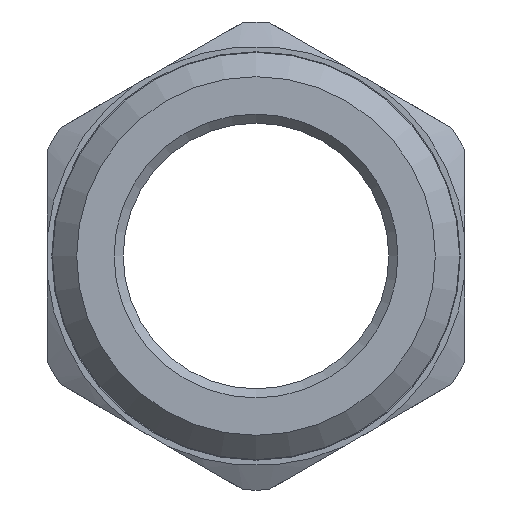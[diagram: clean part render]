
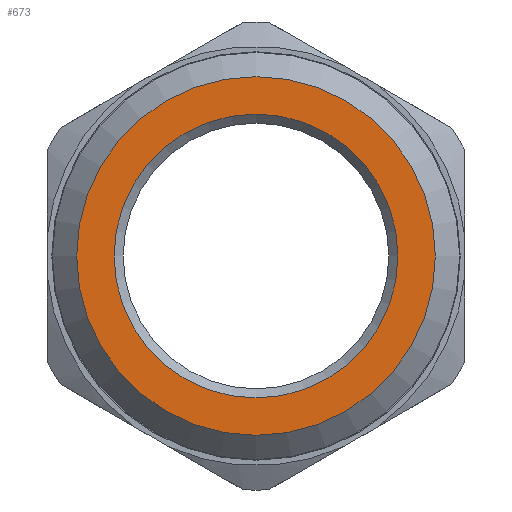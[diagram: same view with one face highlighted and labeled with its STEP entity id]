
A CAD part, front view. The second image highlights one B-rep face of the part: STEP entity #673.
In plain terms, the highlighted planar face has unit normal (0, -1, 0).
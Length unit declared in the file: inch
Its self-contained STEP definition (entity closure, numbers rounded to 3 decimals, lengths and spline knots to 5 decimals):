
#40=FACE_BOUND('',#113,.T.);
#46=PLANE('',#733);
#72=FACE_OUTER_BOUND('',#112,.T.);
#112=EDGE_LOOP('',(#461));
#113=EDGE_LOOP('',(#462));
#224=CIRCLE('',#732,0.2335);
#225=CIRCLE('',#734,0.295);
#272=VERTEX_POINT('',#1037);
#273=VERTEX_POINT('',#1041);
#347=EDGE_CURVE('',#272,#272,#224,.T.);
#348=EDGE_CURVE('',#273,#273,#225,.T.);
#461=ORIENTED_EDGE('',*,*,#348,.F.);
#462=ORIENTED_EDGE('',*,*,#347,.F.);
#673=ADVANCED_FACE('',(#72,#40),#46,.T.);
#732=AXIS2_PLACEMENT_3D('',#1039,#834,#835);
#733=AXIS2_PLACEMENT_3D('',#1040,#836,#837);
#734=AXIS2_PLACEMENT_3D('',#1042,#838,#839);
#834=DIRECTION('center_axis',(0.,-1.,0.));
#835=DIRECTION('ref_axis',(0.,0.,1.));
#836=DIRECTION('center_axis',(0.,-1.,0.));
#837=DIRECTION('ref_axis',(0.,0.,-1.));
#838=DIRECTION('center_axis',(0.,1.,0.));
#839=DIRECTION('ref_axis',(0.,0.,1.));
#1037=CARTESIAN_POINT('',(0.,0.,-0.2335));
#1039=CARTESIAN_POINT('Origin',(0.,0.,0.));
#1040=CARTESIAN_POINT('Origin',(0.,0.,-0.2185));
#1041=CARTESIAN_POINT('',(0.,0.,-0.295));
#1042=CARTESIAN_POINT('Origin',(0.,0.,0.));
